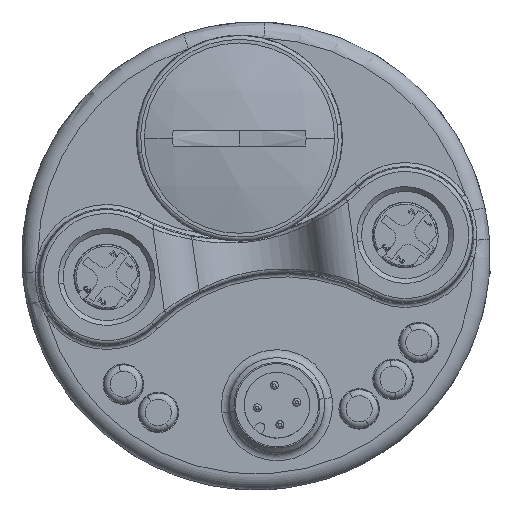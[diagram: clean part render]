
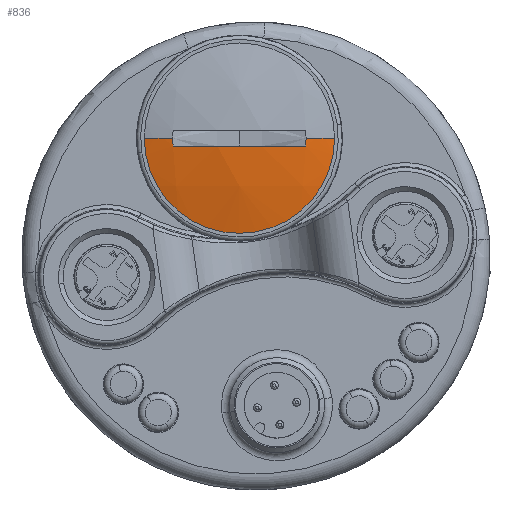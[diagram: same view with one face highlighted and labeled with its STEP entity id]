
A CAD part, left-side view. The second image highlights one B-rep face of the part: STEP entity #836.
In plain terms, the highlighted spherical face has radius 48.75 mm.
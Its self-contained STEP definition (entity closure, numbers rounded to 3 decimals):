
#836 = ADVANCED_FACE ( 'NONE', ( #15013 ), #12502, .T. ) ;
#1089 = VERTEX_POINT ( 'NONE', #29309 ) ;
#2124 = DIRECTION ( 'NONE',  ( 0., 0., 1. ) ) ;
#2133 = EDGE_CURVE ( 'NONE', #26630, #18063, #7679, .T. ) ;
#2940 = VERTEX_POINT ( 'NONE', #12351 ) ;
#2998 = ORIENTED_EDGE ( 'NONE', *, *, #29445, .F. ) ;
#3321 = DIRECTION ( 'NONE',  ( 0., 1., 0. ) ) ;
#4327 = CARTESIAN_POINT ( 'NONE',  ( -44.766, 10.458, 13.854 ) ) ;
#4501 = EDGE_CURVE ( 'NONE', #1089, #18063, #25508, .T. ) ;
#4520 = CARTESIAN_POINT ( 'NONE',  ( -44.772, 10.483, 14.854 ) ) ;
#4530 = B_SPLINE_CURVE_WITH_KNOTS ( 'NONE', 3,
 ( #18017, #26405, #35222, #8721 ),
 .UNSPECIFIED., .F., .F.,
 ( 4, 4 ),
 ( 0.001, 0.002 ),
 .UNSPECIFIED. ) ;
#4835 = DIRECTION ( 'NONE',  ( 1., 0., 0. ) ) ;
#5064 = ORIENTED_EDGE ( 'NONE', *, *, #2133, .F. ) ;
#7679 = CIRCLE ( 'NONE', #20081, 48.75 ) ;
#7942 = DIRECTION ( 'NONE',  ( 0., 0., 1. ) ) ;
#8511 = CARTESIAN_POINT ( 'NONE',  ( 3.25, 2.088, 14.854 ) ) ;
#8560 = VERTEX_POINT ( 'NONE', #23577 ) ;
#8721 = CARTESIAN_POINT ( 'NONE',  ( -44.766, -6.283, 13.854 ) ) ;
#12183 = CARTESIAN_POINT ( 'NONE',  ( -44.772, -6.307, 14.854 ) ) ;
#12351 = CARTESIAN_POINT ( 'NONE',  ( -44.766, -6.283, 13.854 ) ) ;
#12502 = SPHERICAL_SURFACE ( 'NONE', #29328, 48.75 ) ;
#12796 = CIRCLE ( 'NONE', #15878, 48.74 ) ;
#13577 = AXIS2_PLACEMENT_3D ( 'NONE', #32752, #17522, #3321 ) ;
#13800 = DIRECTION ( 'NONE',  ( 0., 0., 1. ) ) ;
#13812 = AXIS2_PLACEMENT_3D ( 'NONE', #15061, #27457, #35900 ) ;
#14189 = DIRECTION ( 'NONE',  ( -1., 0., 0. ) ) ;
#14235 = EDGE_CURVE ( 'NONE', #32043, #8560, #33826, .T. ) ;
#15013 = FACE_OUTER_BOUND ( 'NONE', #30859, .T. ) ;
#15061 = CARTESIAN_POINT ( 'NONE',  ( -44., 2.088, 14.854 ) ) ;
#15386 = VERTEX_POINT ( 'NONE', #12183 ) ;
#15878 = AXIS2_PLACEMENT_3D ( 'NONE', #16691, #13800, #4835 ) ;
#16691 = CARTESIAN_POINT ( 'NONE',  ( 3.25, 2.088, 13.854 ) ) ;
#17522 = DIRECTION ( 'NONE',  ( 0., 0., -1. ) ) ;
#18017 = CARTESIAN_POINT ( 'NONE',  ( -44.772, -6.307, 14.854 ) ) ;
#18063 = VERTEX_POINT ( 'NONE', #23711 ) ;
#18700 = CARTESIAN_POINT ( 'NONE',  ( -44.772, 10.483, 14.521 ) ) ;
#19846 = ORIENTED_EDGE ( 'NONE', *, *, #30359, .T. ) ;
#20029 = CARTESIAN_POINT ( 'NONE',  ( -44., 2.088, 2.854 ) ) ;
#20081 = AXIS2_PLACEMENT_3D ( 'NONE', #8511, #2124, #38095 ) ;
#21531 = CARTESIAN_POINT ( 'NONE',  ( -44., 14.088, 14.854 ) ) ;
#22153 = ORIENTED_EDGE ( 'NONE', *, *, #14235, .T. ) ;
#23446 = CIRCLE ( 'NONE', #13577, 48.75 ) ;
#23577 = CARTESIAN_POINT ( 'NONE',  ( -44., -9.912, 14.854 ) ) ;
#23692 = CIRCLE ( 'NONE', #13812, 12. ) ;
#23711 = CARTESIAN_POINT ( 'NONE',  ( -44.772, 10.483, 14.854 ) ) ;
#24509 = DIRECTION ( 'NONE',  ( 0., 1., 0. ) ) ;
#24712 = ORIENTED_EDGE ( 'NONE', *, *, #33764, .T. ) ;
#25508 = B_SPLINE_CURVE_WITH_KNOTS ( 'NONE', 3,
 ( #4327, #33368, #18700, #4520 ),
 .UNSPECIFIED., .F., .F.,
 ( 4, 4 ),
 ( 0., 0.001 ),
 .UNSPECIFIED. ) ;
#26405 = CARTESIAN_POINT ( 'NONE',  ( -44.772, -6.307, 14.521 ) ) ;
#26464 = AXIS2_PLACEMENT_3D ( 'NONE', #34465, #14189, #7942 ) ;
#26630 = VERTEX_POINT ( 'NONE', #21531 ) ;
#27457 = DIRECTION ( 'NONE',  ( -1., 0., 0. ) ) ;
#27890 = EDGE_CURVE ( 'NONE', #26630, #32043, #23692, .T. ) ;
#29309 = CARTESIAN_POINT ( 'NONE',  ( -44.766, 10.458, 13.854 ) ) ;
#29328 = AXIS2_PLACEMENT_3D ( 'NONE', #33143, #36048, #24509 ) ;
#29445 = EDGE_CURVE ( 'NONE', #1089, #2940, #12796, .T. ) ;
#30359 = EDGE_CURVE ( 'NONE', #15386, #2940, #4530, .T. ) ;
#30689 = ORIENTED_EDGE ( 'NONE', *, *, #4501, .T. ) ;
#30859 = EDGE_LOOP ( 'NONE', ( #33121, #22153, #24712, #19846, #2998, #30689, #5064 ) ) ;
#32043 = VERTEX_POINT ( 'NONE', #20029 ) ;
#32752 = CARTESIAN_POINT ( 'NONE',  ( 3.25, 2.088, 14.854 ) ) ;
#33121 = ORIENTED_EDGE ( 'NONE', *, *, #27890, .T. ) ;
#33143 = CARTESIAN_POINT ( 'NONE',  ( 3.25, 2.088, 14.854 ) ) ;
#33368 = CARTESIAN_POINT ( 'NONE',  ( -44.77, 10.474, 14.187 ) ) ;
#33764 = EDGE_CURVE ( 'NONE', #8560, #15386, #23446, .T. ) ;
#33826 = CIRCLE ( 'NONE', #26464, 12. ) ;
#34465 = CARTESIAN_POINT ( 'NONE',  ( -44., 2.088, 14.854 ) ) ;
#35222 = CARTESIAN_POINT ( 'NONE',  ( -44.77, -6.299, 14.187 ) ) ;
#35900 = DIRECTION ( 'NONE',  ( 0., 0., 1. ) ) ;
#36048 = DIRECTION ( 'NONE',  ( 0., 0., -1. ) ) ;
#38095 = DIRECTION ( 'NONE',  ( 1., 0., 0. ) ) ;
